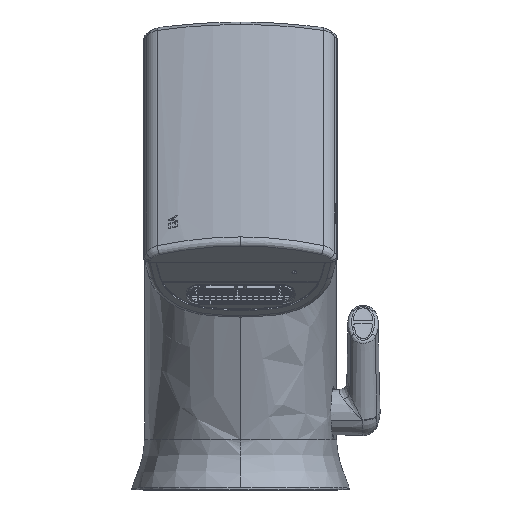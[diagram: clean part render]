
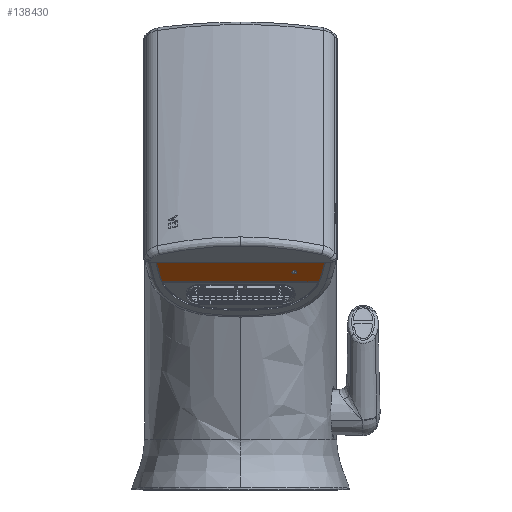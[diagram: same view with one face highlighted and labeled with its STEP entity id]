
A CAD part, top view. The second image highlights one B-rep face of the part: STEP entity #138430.
In plain terms, the highlighted planar face has unit normal (0, -0.743, 0.669).
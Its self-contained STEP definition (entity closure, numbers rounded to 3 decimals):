
#3943 = CARTESIAN_POINT ( 'NONE',  ( 20.734, 54.185, 108.19 ) ) ;
#7084 = ORIENTED_EDGE ( 'NONE', *, *, #82680, .F. ) ;
#12531 = DIRECTION ( 'NONE',  ( 0., 0.743, -0.669 ) ) ;
#13207 = AXIS2_PLACEMENT_3D ( 'NONE', #126429, #12531, #145563 ) ;
#15744 = ORIENTED_EDGE ( 'NONE', *, *, #94554, .F. ) ;
#17197 = AXIS2_PLACEMENT_3D ( 'NONE', #56562, #189381, #75712 ) ;
#21424 = CARTESIAN_POINT ( 'NONE',  ( 22.491, 60.386, 115.077 ) ) ;
#28615 = LINE ( 'NONE', #72175, #224857 ) ;
#31296 = EDGE_CURVE ( 'NONE', #85733, #65071, #209037, .T. ) ;
#38648 = EDGE_LOOP ( 'NONE', ( #206300, #156400 ) ) ;
#40460 = VERTEX_POINT ( 'NONE', #115084 ) ;
#40538 = DIRECTION ( 'NONE',  ( -0.174, -0.659, -0.732 ) ) ;
#40612 = EDGE_LOOP ( 'NONE', ( #54339, #15744, #178933, #164458, #140950, #7084 ) ) ;
#42504 = DIRECTION ( 'NONE',  ( -1., 0., 0. ) ) ;
#53034 = DIRECTION ( 'NONE',  ( -1., 0., 0. ) ) ;
#53372 = VERTEX_POINT ( 'NONE', #3943 ) ;
#53630 = CIRCLE ( 'NONE', #13207, 0.6 ) ;
#54339 = ORIENTED_EDGE ( 'NONE', *, *, #81480, .F. ) ;
#56562 = CARTESIAN_POINT ( 'NONE',  ( 14.2, 56.842, 111.142 ) ) ;
#63410 = AXIS2_PLACEMENT_3D ( 'NONE', #141231, #103673, #236694 ) ;
#65071 = VERTEX_POINT ( 'NONE', #95699 ) ;
#72175 = CARTESIAN_POINT ( 'NONE',  ( 30., 59.5, 114.093 ) ) ;
#75712 = DIRECTION ( 'NONE',  ( 0., -0.669, -0.743 ) ) ;
#81136 = CARTESIAN_POINT ( 'NONE',  ( 21.083, 55.043, 109.143 ) ) ;
#81480 = EDGE_CURVE ( 'NONE', #102105, #53372, #143156, .T. ) ;
#82680 = EDGE_CURVE ( 'NONE', #53372, #65071, #225303, .T. ) ;
#83950 = EDGE_CURVE ( 'NONE', #201168, #182685, #28615, .T. ) ;
#85733 = VERTEX_POINT ( 'NONE', #92340 ) ;
#89606 = CIRCLE ( 'NONE', #17197, 0.6 ) ;
#92340 = CARTESIAN_POINT ( 'NONE',  ( -21.199, 55.482, 109.631 ) ) ;
#94554 = EDGE_CURVE ( 'NONE', #201168, #102105, #154490, .T. ) ;
#95699 = CARTESIAN_POINT ( 'NONE',  ( -20.734, 54.185, 108.19 ) ) ;
#97007 = EDGE_CURVE ( 'NONE', #182685, #85733, #231300, .T. ) ;
#100134 = CARTESIAN_POINT ( 'NONE',  ( -20.928, 54.61, 108.662 ) ) ;
#100218 = CARTESIAN_POINT ( 'NONE',  ( 20.734, 54.185, 108.19 ) ) ;
#102105 = VERTEX_POINT ( 'NONE', #113752 ) ;
#103673 = DIRECTION ( 'NONE',  ( 0., -0.743, 0.669 ) ) ;
#103872 = VECTOR ( 'NONE', #40538, 1000. ) ;
#113752 = CARTESIAN_POINT ( 'NONE',  ( 21.199, 55.482, 109.631 ) ) ;
#115084 = CARTESIAN_POINT ( 'NONE',  ( 14.2, 56.441, 110.696 ) ) ;
#119290 = CARTESIAN_POINT ( 'NONE',  ( -21.199, 55.482, 109.631 ) ) ;
#122031 = CARTESIAN_POINT ( 'NONE',  ( -22.257, 59.5, 114.093 ) ) ;
#124252 = VECTOR ( 'NONE', #42504, 1000. ) ;
#126429 = CARTESIAN_POINT ( 'NONE',  ( 14.2, 56.842, 111.142 ) ) ;
#134074 = EDGE_CURVE ( 'NONE', #227843, #40460, #53630, .T. ) ;
#138430 = ADVANCED_FACE ( 'NONE', ( #153142, #242355 ), #217457, .T. ) ;
#138493 = CARTESIAN_POINT ( 'NONE',  ( -20.734, 54.185, 108.19 ) ) ;
#140950 = ORIENTED_EDGE ( 'NONE', *, *, #31296, .T. ) ;
#141231 = CARTESIAN_POINT ( 'NONE',  ( 30., 59.5, 114.093 ) ) ;
#143156 =( BOUNDED_CURVE ( )  B_SPLINE_CURVE ( 3, ( #194821, #81136, #213946, #100218 ),
 .UNSPECIFIED., .F., .F. ) 
 B_SPLINE_CURVE_WITH_KNOTS ( ( 4, 4 ),
 ( 4.896, 5.023 ),
 .UNSPECIFIED. ) 
 CURVE ( )  GEOMETRIC_REPRESENTATION_ITEM ( )  RATIONAL_B_SPLINE_CURVE ( ( 1., 0.999, 0.999, 1. ) ) 
 REPRESENTATION_ITEM ( '' )  );
#145563 = DIRECTION ( 'NONE',  ( 0., -0.669, -0.743 ) ) ;
#153142 = FACE_OUTER_BOUND ( 'NONE', #40612, .T. ) ;
#153366 = DIRECTION ( 'NONE',  ( 0.174, -0.659, -0.732 ) ) ;
#154490 = LINE ( 'NONE', #21424, #103872 ) ;
#156400 = ORIENTED_EDGE ( 'NONE', *, *, #134074, .T. ) ;
#164458 = ORIENTED_EDGE ( 'NONE', *, *, #97007, .T. ) ;
#174880 = CARTESIAN_POINT ( 'NONE',  ( -21.083, 55.043, 109.143 ) ) ;
#178933 = ORIENTED_EDGE ( 'NONE', *, *, #83950, .T. ) ;
#182685 = VERTEX_POINT ( 'NONE', #122031 ) ;
#184973 = EDGE_CURVE ( 'NONE', #40460, #227843, #89606, .T. ) ;
#186346 = CARTESIAN_POINT ( 'NONE',  ( 14.2, 57.244, 111.588 ) ) ;
#189381 = DIRECTION ( 'NONE',  ( 0., 0.743, -0.669 ) ) ;
#190576 = CARTESIAN_POINT ( 'NONE',  ( -22.491, 60.386, 115.077 ) ) ;
#194821 = CARTESIAN_POINT ( 'NONE',  ( 21.199, 55.482, 109.631 ) ) ;
#201168 = VERTEX_POINT ( 'NONE', #226903 ) ;
#206300 = ORIENTED_EDGE ( 'NONE', *, *, #184973, .T. ) ;
#209037 =( BOUNDED_CURVE ( )  B_SPLINE_CURVE ( 3, ( #119290, #174880, #100134, #138493 ),
 .UNSPECIFIED., .F., .T. ) 
 B_SPLINE_CURVE_WITH_KNOTS ( ( 4, 4 ),
 ( 4.896, 5.023 ),
 .UNSPECIFIED. ) 
 CURVE ( )  GEOMETRIC_REPRESENTATION_ITEM ( )  RATIONAL_B_SPLINE_CURVE ( ( 1., 0.999, 0.999, 1. ) ) 
 REPRESENTATION_ITEM ( '' )  );
#213946 = CARTESIAN_POINT ( 'NONE',  ( 20.928, 54.61, 108.662 ) ) ;
#217457 = PLANE ( 'NONE',  #63410 ) ;
#224857 = VECTOR ( 'NONE', #53034, 1000. ) ;
#225291 = VECTOR ( 'NONE', #153366, 1000. ) ;
#225303 = LINE ( 'NONE', #231927, #124252 ) ;
#226903 = CARTESIAN_POINT ( 'NONE',  ( 22.257, 59.5, 114.093 ) ) ;
#227843 = VERTEX_POINT ( 'NONE', #186346 ) ;
#231300 = LINE ( 'NONE', #190576, #225291 ) ;
#231927 = CARTESIAN_POINT ( 'NONE',  ( 30., 54.185, 108.19 ) ) ;
#236694 = DIRECTION ( 'NONE',  ( 0., 0.669, 0.743 ) ) ;
#242355 = FACE_BOUND ( 'NONE', #38648, .T. ) ;
